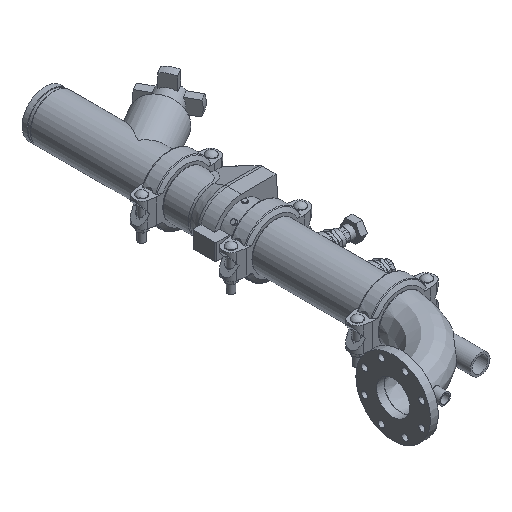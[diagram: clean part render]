
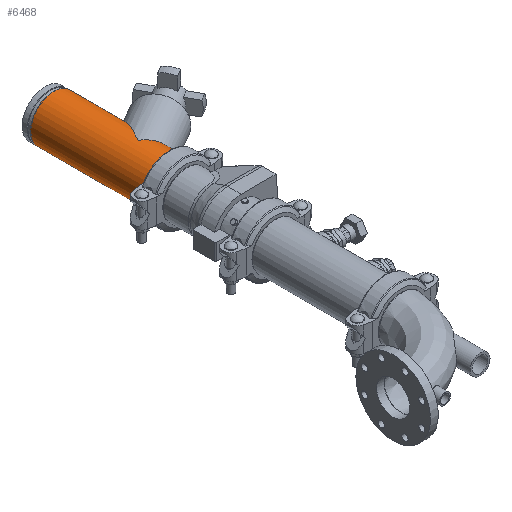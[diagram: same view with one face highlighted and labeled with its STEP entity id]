
A CAD part, isometric view. The second image highlights one B-rep face of the part: STEP entity #6468.
In plain terms, the highlighted cylindrical face has radius 70.65 mm (diameter 141.3 mm), a full revolution.
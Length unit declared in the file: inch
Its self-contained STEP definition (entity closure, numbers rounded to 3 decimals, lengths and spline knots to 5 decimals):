
#129=ELLIPSE('',#7058,5.563,2.7815);
#130=ELLIPSE('',#7059,3.2118,2.7815);
#131=ELLIPSE('',#7060,3.2118,2.7815);
#132=ELLIPSE('',#7061,5.563,2.7815);
#221=LINE('',#9938,#694);
#222=LINE('',#9943,#695);
#694=VECTOR('',#7964,2.7815);
#695=VECTOR('',#7969,2.7815);
#1138=CYLINDRICAL_SURFACE('',#7055,2.7815);
#1360=FACE_OUTER_BOUND('',#1724,.T.);
#1724=EDGE_LOOP('',(#4199,#4200,#4201,#4202,#4203,#4204,#4205,#4206,#4207,
#4208,#4209,#4210));
#2154=CIRCLE('',#7036,2.7815);
#2155=CIRCLE('',#7037,2.7815);
#2168=CIRCLE('',#7056,2.7815);
#2169=CIRCLE('',#7057,2.7815);
#2539=VERTEX_POINT('',#9896);
#2540=VERTEX_POINT('',#9897);
#2553=VERTEX_POINT('',#9933);
#2554=VERTEX_POINT('',#9934);
#2555=VERTEX_POINT('',#9937);
#2556=VERTEX_POINT('',#9939);
#2557=VERTEX_POINT('',#9941);
#2558=VERTEX_POINT('',#9944);
#3185=EDGE_CURVE('',#2539,#2540,#2154,.T.);
#3186=EDGE_CURVE('',#2540,#2539,#2155,.T.);
#3202=EDGE_CURVE('',#2553,#2554,#2168,.T.);
#3203=EDGE_CURVE('',#2554,#2553,#2169,.T.);
#3204=EDGE_CURVE('',#2554,#2555,#221,.T.);
#3205=EDGE_CURVE('',#2555,#2556,#129,.T.);
#3206=EDGE_CURVE('',#2556,#2557,#130,.T.);
#3207=EDGE_CURVE('',#2557,#2540,#222,.T.);
#3208=EDGE_CURVE('',#2557,#2558,#131,.T.);
#3209=EDGE_CURVE('',#2558,#2555,#132,.T.);
#4199=ORIENTED_EDGE('',*,*,#3202,.F.);
#4200=ORIENTED_EDGE('',*,*,#3203,.F.);
#4201=ORIENTED_EDGE('',*,*,#3204,.T.);
#4202=ORIENTED_EDGE('',*,*,#3205,.T.);
#4203=ORIENTED_EDGE('',*,*,#3206,.T.);
#4204=ORIENTED_EDGE('',*,*,#3207,.T.);
#4205=ORIENTED_EDGE('',*,*,#3186,.T.);
#4206=ORIENTED_EDGE('',*,*,#3185,.T.);
#4207=ORIENTED_EDGE('',*,*,#3207,.F.);
#4208=ORIENTED_EDGE('',*,*,#3208,.T.);
#4209=ORIENTED_EDGE('',*,*,#3209,.T.);
#4210=ORIENTED_EDGE('',*,*,#3204,.F.);
#6468=ADVANCED_FACE('',(#1360),#1138,.T.);
#7036=AXIS2_PLACEMENT_3D('',#9898,#7917,#7918);
#7037=AXIS2_PLACEMENT_3D('',#9899,#7919,#7920);
#7055=AXIS2_PLACEMENT_3D('',#9932,#7958,#7959);
#7056=AXIS2_PLACEMENT_3D('',#9935,#7960,#7961);
#7057=AXIS2_PLACEMENT_3D('',#9936,#7962,#7963);
#7058=AXIS2_PLACEMENT_3D('',#9940,#7965,#7966);
#7059=AXIS2_PLACEMENT_3D('',#9942,#7967,#7968);
#7060=AXIS2_PLACEMENT_3D('',#9945,#7970,#7971);
#7061=AXIS2_PLACEMENT_3D('',#9946,#7972,#7973);
#7917=DIRECTION('center_axis',(1.,0.,0.));
#7918=DIRECTION('ref_axis',(0.,0.,-1.));
#7919=DIRECTION('center_axis',(1.,0.,0.));
#7920=DIRECTION('ref_axis',(0.,0.,-1.));
#7958=DIRECTION('center_axis',(1.,0.,0.));
#7959=DIRECTION('ref_axis',(0.,1.,0.));
#7960=DIRECTION('center_axis',(1.,0.,0.));
#7961=DIRECTION('ref_axis',(0.,0.,-1.));
#7962=DIRECTION('center_axis',(1.,0.,0.));
#7963=DIRECTION('ref_axis',(0.,0.,-1.));
#7964=DIRECTION('',(-1.,0.,0.));
#7965=DIRECTION('center_axis',(0.5,0.866,0.));
#7966=DIRECTION('ref_axis',(-0.866,0.5,0.));
#7967=DIRECTION('center_axis',(-0.866,0.5,0.));
#7968=DIRECTION('ref_axis',(-0.5,-0.866,0.));
#7969=DIRECTION('',(-1.,0.,0.));
#7970=DIRECTION('center_axis',(-0.866,0.5,0.));
#7971=DIRECTION('ref_axis',(-0.5,-0.866,0.));
#7972=DIRECTION('center_axis',(0.5,0.866,0.));
#7973=DIRECTION('ref_axis',(-0.866,0.5,0.));
#9896=CARTESIAN_POINT('',(-6.875,2.7815,0.));
#9897=CARTESIAN_POINT('',(-6.875,-2.7815,0.));
#9898=CARTESIAN_POINT('Origin',(-6.875,0.,0.));
#9899=CARTESIAN_POINT('Origin',(-6.875,0.,0.));
#9932=CARTESIAN_POINT('Origin',(0.,0.,
0.));
#9933=CARTESIAN_POINT('',(6.875,2.7815,0.));
#9934=CARTESIAN_POINT('',(6.875,-2.7815,0.));
#9935=CARTESIAN_POINT('Origin',(6.875,0.,0.));
#9936=CARTESIAN_POINT('Origin',(6.875,0.,0.));
#9937=CARTESIAN_POINT('',(1.44546,-2.7815,0.));
#9938=CARTESIAN_POINT('',(0.,-2.7815,0.));
#9939=CARTESIAN_POINT('',(-3.37224,0.,-2.7815));
#9940=CARTESIAN_POINT('Origin',(-3.37224,0.,0.));
#9941=CARTESIAN_POINT('',(-4.97814,-2.7815,0.));
#9942=CARTESIAN_POINT('Origin',(-3.37224,0.,0.));
#9943=CARTESIAN_POINT('',(0.,-2.7815,0.));
#9944=CARTESIAN_POINT('',(-3.37224,0.,2.7815));
#9945=CARTESIAN_POINT('Origin',(-3.37224,0.,0.));
#9946=CARTESIAN_POINT('Origin',(-3.37224,0.,0.));
